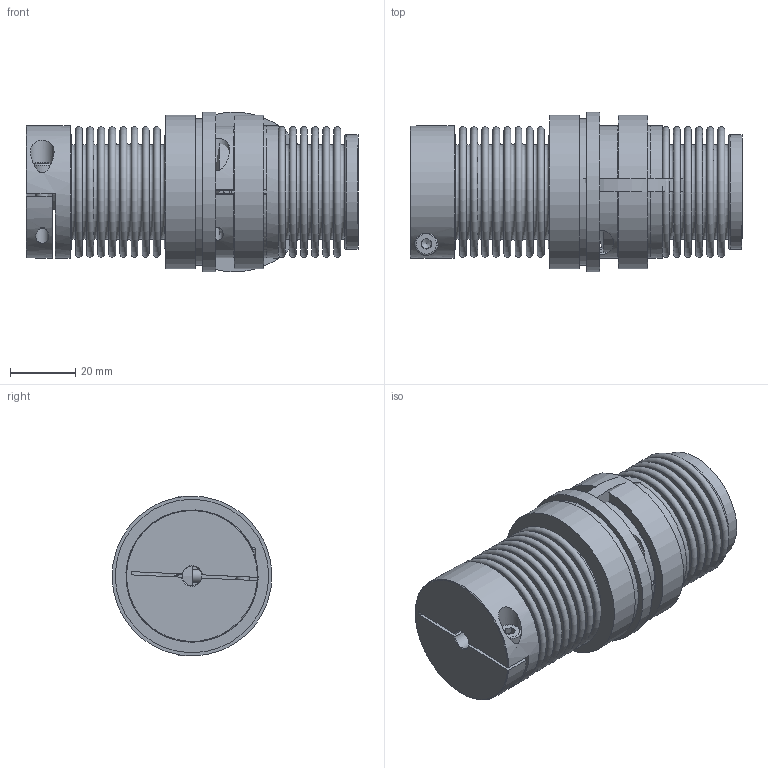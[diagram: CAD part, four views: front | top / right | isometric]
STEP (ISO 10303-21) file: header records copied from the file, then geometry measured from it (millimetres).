
FILE_DESCRIPTION( ( 'Unknown' ), '1' );
FILE_NAME( 'C:/Dokumente und Einstellungen/SKarpstein/Desktop/Korrigierte 3D Modelle/KBK-BKK-7-75.stp', 'Unknown', ( 'Unknown' ), ( 'Unknown' ), 'XStep 1.0', 'Unknown', ' ' );
FILE_SCHEMA( ( 'automotive_design' ) );
Length unit declared in the file: millimetre
Products named in the file (11): Assem1; Assem2; Zylinderschraube DIN 912; Druckring 10; L-K-10 Grundteil; Klemmnabe 7-10; Stellring 10; Flansch BK10; BL100_Standard_0; KN10_Standard_5; Socket Head Cap Screw_DIN_DIN 912 M4 x 16 --- 16N_4
Bounding box: 101.73 x 48.99 x 49 mm (x, y, z)
Volume: 123909.4 mm3; surface area: 108421 mm2
Topology: 19 solids, 19 shells, 415 faces, 838 edges, 551 vertices
Faces by surface type: plane 216, torus 86, cylinder 84, cone 29
Full cylindrical faces by diameter (mm): 2.459 x4, 3.242 x2, 4 x7, 4.2 x4, 6 x4, 7 x5, 7.2 x2, 7.3 x2, 19 x2, 20 x4, 22 x2, 24 x4, 25 x2, 26 x2, 29.993 x2, 32 x2, 34.343 x2, 35.143 x2, 35.2 x2, 36 x2, 38 x2, 40 x2, 40.5 x2, 45 x2, 47 x2, 49 x2
Entity records: 5503 total; most frequent: CARTESIAN_POINT 1246, DIRECTION 859, ORIENTED_EDGE 608, AXIS2_PLACEMENT_3D 383, EDGE_LOOP 353, EDGE_CURVE 304, FACE_OUTER_BOUND 278, VERTEX_POINT 250
